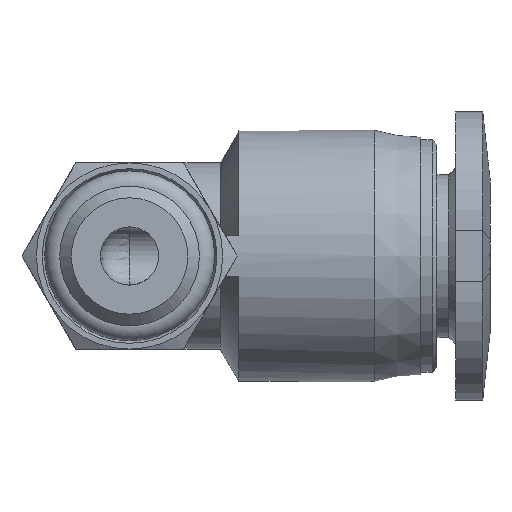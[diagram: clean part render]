
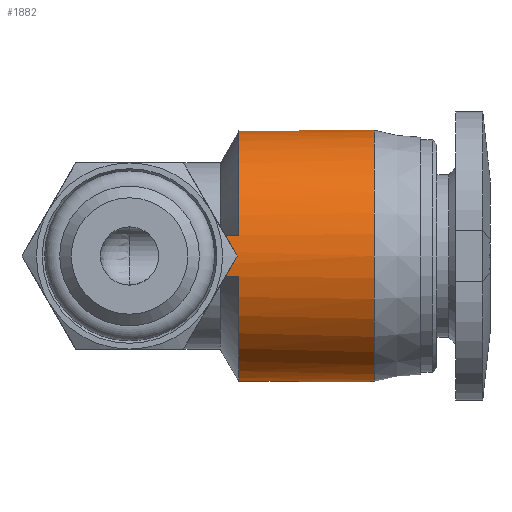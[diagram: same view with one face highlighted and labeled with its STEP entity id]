
A CAD part, front view. The second image highlights one B-rep face of the part: STEP entity #1882.
In plain terms, the highlighted cylindrical face has radius 5.4 mm (diameter 10.8 mm), a full revolution.
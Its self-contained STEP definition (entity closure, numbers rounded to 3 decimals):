
#197=CARTESIAN_POINT('',(4.7,11.224,0.9));
#198=VERTEX_POINT('',#197);
#1682=CARTESIAN_POINT('',(4.7,0.576,-0.9));
#1683=VERTEX_POINT('',#1682);
#1699=CARTESIAN_POINT('',(3.897,0.576,-0.9));
#1700=VERTEX_POINT('',#1699);
#1701=CARTESIAN_POINT('',(4.7,0.576,-0.9));
#1702=DIRECTION('',(-1.0,0.0,0.0));
#1703=VECTOR('',#1702,0.803);
#1704=LINE('',#1701,#1703);
#1705=EDGE_CURVE('',#1683,#1700,#1704,.T.);
#1754=CARTESIAN_POINT('',(4.7,0.576,0.9));
#1755=VERTEX_POINT('',#1754);
#1800=CARTESIAN_POINT('',(3.897,0.576,0.9));
#1801=VERTEX_POINT('',#1800);
#1808=CARTESIAN_POINT('',(4.7,0.576,0.9));
#1809=DIRECTION('',(-1.0,0.0,0.0));
#1810=VECTOR('',#1809,0.803);
#1811=LINE('',#1808,#1810);
#1812=EDGE_CURVE('',#1755,#1801,#1811,.T.);
#1817=CARTESIAN_POINT('',(4.7,5.9,0.0));
#1818=DIRECTION('',(-1.0,0.0,0.0));
#1819=DIRECTION('',(0.0,0.986,0.167));
#1820=AXIS2_PLACEMENT_3D('',#1817,#1818,#1819);
#1821=CYLINDRICAL_SURFACE('',#1820,5.4);
#1822=CARTESIAN_POINT('',(10.5,11.3,0.0));
#1823=VERTEX_POINT('',#1822);
#1824=CARTESIAN_POINT('',(10.5,5.9,0.0));
#1825=DIRECTION('',(1.0,0.0,0.0));
#1826=DIRECTION('',(0.0,1.0,0.0));
#1827=AXIS2_PLACEMENT_3D('',#1824,#1825,#1826);
#1828=CIRCLE('',#1827,5.4);
#1829=EDGE_CURVE('',#1823,#1823,#1828,.T.);
#1830=ORIENTED_EDGE('',*,*,#1829,.F.);
#1831=EDGE_LOOP('',(#1830));
#1832=FACE_OUTER_BOUND('',#1831,.T.);
#1833=CARTESIAN_POINT('',(3.897,0.576,-0.9));
#1834=CARTESIAN_POINT('',(3.962,0.528,-0.621));
#1835=CARTESIAN_POINT('',(3.996,0.503,-0.334));
#1836=CARTESIAN_POINT('',(4.,0.5,-0.054));
#1837=CARTESIAN_POINT('',(4.003,0.498,0.209));
#1838=CARTESIAN_POINT('',(3.981,0.514,0.476));
#1839=CARTESIAN_POINT('',(3.931,0.551,0.74));
#1840=CARTESIAN_POINT('',(3.921,0.558,0.793));
#1841=CARTESIAN_POINT('',(3.91,0.567,0.847));
#1842=CARTESIAN_POINT('',(3.897,0.576,0.9));
#1843=B_SPLINE_CURVE_WITH_KNOTS('',3,(#1833,#1834,#1835,#1836,#1837,#1838,#1839,#1840,#1841,#1842),.UNSPECIFIED.,.F.,.U.,(4,3,3,4),(0.547,0.631,0.71,0.726),.UNSPECIFIED.);
#1844=EDGE_CURVE('',#1700,#1801,#1843,.T.);
#1845=ORIENTED_EDGE('',*,*,#1844,.F.);
#1846=ORIENTED_EDGE('',*,*,#1705,.F.);
#1847=CARTESIAN_POINT('',(4.7,11.224,-0.9));
#1848=VERTEX_POINT('',#1847);
#1849=CARTESIAN_POINT('',(4.7,5.9,0.0));
#1850=DIRECTION('',(1.0,0.0,0.0));
#1851=DIRECTION('',(0.0,1.0,0.0));
#1852=AXIS2_PLACEMENT_3D('',#1849,#1850,#1851);
#1853=CIRCLE('',#1852,5.4);
#1854=EDGE_CURVE('',#1683,#1848,#1853,.T.);
#1855=ORIENTED_EDGE('',*,*,#1854,.T.);
#1856=CARTESIAN_POINT('',(4.7,11.3,0.0));
#1857=VERTEX_POINT('',#1856);
#1858=CARTESIAN_POINT('',(4.7,5.9,0.0));
#1859=DIRECTION('',(1.0,0.0,0.0));
#1860=DIRECTION('',(0.0,1.0,0.0));
#1861=AXIS2_PLACEMENT_3D('',#1858,#1859,#1860);
#1862=CIRCLE('',#1861,5.4);
#1863=EDGE_CURVE('',#1848,#1857,#1862,.T.);
#1864=ORIENTED_EDGE('',*,*,#1863,.T.);
#1865=CARTESIAN_POINT('',(4.7,5.9,0.0));
#1866=DIRECTION('',(1.0,0.0,0.0));
#1867=DIRECTION('',(0.0,1.0,0.0));
#1868=AXIS2_PLACEMENT_3D('',#1865,#1866,#1867);
#1869=CIRCLE('',#1868,5.4);
#1870=EDGE_CURVE('',#1857,#198,#1869,.T.);
#1871=ORIENTED_EDGE('',*,*,#1870,.T.);
#1872=CARTESIAN_POINT('',(4.7,5.9,0.0));
#1873=DIRECTION('',(1.0,0.0,0.0));
#1874=DIRECTION('',(0.0,1.0,0.0));
#1875=AXIS2_PLACEMENT_3D('',#1872,#1873,#1874);
#1876=CIRCLE('',#1875,5.4);
#1877=EDGE_CURVE('',#198,#1755,#1876,.T.);
#1878=ORIENTED_EDGE('',*,*,#1877,.T.);
#1879=ORIENTED_EDGE('',*,*,#1812,.T.);
#1880=EDGE_LOOP('',(#1845,#1846,#1855,#1864,#1871,#1878,#1879));
#1881=FACE_BOUND('',#1880,.T.);
#1882=ADVANCED_FACE('',(#1832,#1881),#1821,.T.);
